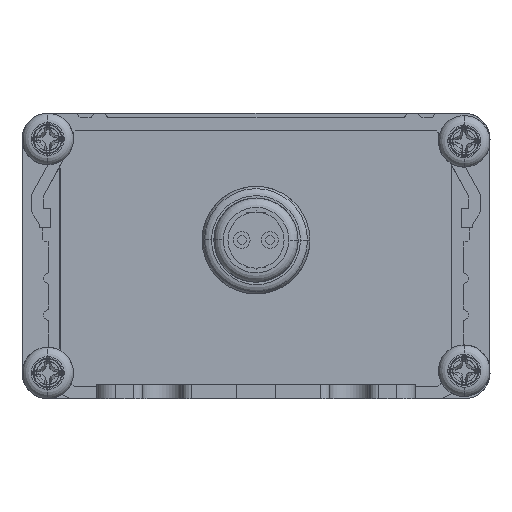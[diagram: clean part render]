
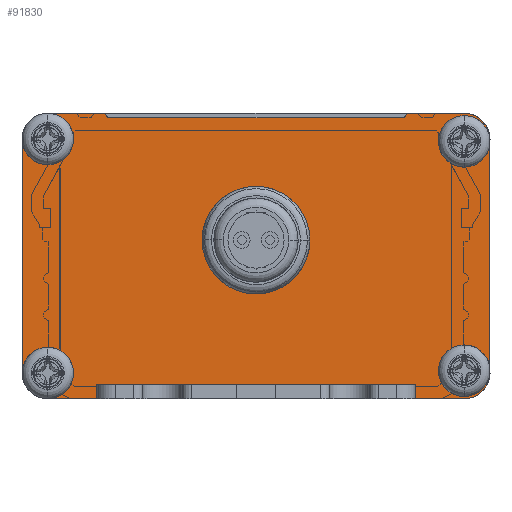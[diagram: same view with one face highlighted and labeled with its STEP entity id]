
A CAD part, left-side view. The second image highlights one B-rep face of the part: STEP entity #91830.
In plain terms, the highlighted planar face has unit normal (-1, 0, 0) as drawn and (0, 1, 0) by its records, which use the part's own axes.
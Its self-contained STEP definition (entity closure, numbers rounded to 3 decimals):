
#89330=CARTESIAN_POINT('',(0.,0.,0.));
#89340=DIRECTION('',(0.,1.,0.));
#89350=DIRECTION('',(1.,0.,0.));
#89360=AXIS2_PLACEMENT_3D('',#89330,#89340,#89350);
#89370=PLANE('',#89360);
#89380=CARTESIAN_POINT('',(-15.45,0.,-17.));
#89390=DIRECTION('',(-1.,0.,0.));
#89400=VECTOR('',#89390,1.);
#89410=LINE('',#89380,#89400);
#89420=CARTESIAN_POINT('',(-15.45,0.,-17.));
#89430=VERTEX_POINT('',#89420);
#89440=CARTESIAN_POINT('',(-16.95,0.,-17.));
#89450=VERTEX_POINT('',#89440);
#89460=EDGE_CURVE('',#89430,#89450,#89410,.T.);
#89470=ORIENTED_EDGE('',*,*,#89460,.F.);
#89480=CARTESIAN_POINT('',(-16.95,0.,-17.));
#89490=DIRECTION('',(0.,0.,-1.));
#89500=VECTOR('',#89490,1.);
#89510=LINE('',#89480,#89500);
#89520=CARTESIAN_POINT('',(-16.95,0.,-22.25));
#89530=VERTEX_POINT('',#89520);
#89540=EDGE_CURVE('',#89450,#89530,#89510,.T.);
#89550=ORIENTED_EDGE('',*,*,#89540,.F.);
#89560=CARTESIAN_POINT('',(-14.2,0.,-22.25));
#89570=DIRECTION('',(0.,-1.,-0.));
#89580=DIRECTION('',(-1.,0.,0.));
#89590=AXIS2_PLACEMENT_3D('',#89560,#89570,#89580);
#89600=CIRCLE('',#89590,2.75);
#89610=CARTESIAN_POINT('',(-14.2,0.,-25.));
#89620=VERTEX_POINT('',#89610);
#89630=EDGE_CURVE('',#89530,#89620,#89600,.T.);
#89640=ORIENTED_EDGE('',*,*,#89630,.F.);
#89650=CARTESIAN_POINT('',(-14.2,0.,-25.));
#89660=DIRECTION('',(1.,0.,0.));
#89670=VECTOR('',#89660,1.);
#89680=LINE('',#89650,#89670);
#89690=CARTESIAN_POINT('',(10.8,0.,-25.));
#89700=VERTEX_POINT('',#89690);
#89710=EDGE_CURVE('',#89620,#89700,#89680,.T.);
#89720=ORIENTED_EDGE('',*,*,#89710,.F.);
#89730=CARTESIAN_POINT('',(10.8,0.,-22.25));
#89740=DIRECTION('',(0.,-1.,-0.));
#89750=DIRECTION('',(0.,0.,-1.));
#89760=AXIS2_PLACEMENT_3D('',#89730,#89740,#89750);
#89770=CIRCLE('',#89760,2.75);
#89780=CARTESIAN_POINT('',(13.55,0.,-22.25));
#89790=VERTEX_POINT('',#89780);
#89800=EDGE_CURVE('',#89700,#89790,#89770,.T.);
#89810=ORIENTED_EDGE('',*,*,#89800,.F.);
#89820=CARTESIAN_POINT('',(13.55,0.,-22.25));
#89830=DIRECTION('',(0.,0.,1.));
#89840=VECTOR('',#89830,1.);
#89850=LINE('',#89820,#89840);
#89860=CARTESIAN_POINT('',(13.55,0.,-16.248));
#89870=VERTEX_POINT('',#89860);
#89880=EDGE_CURVE('',#89790,#89870,#89850,.T.);
#89890=ORIENTED_EDGE('',*,*,#89880,.F.);
#89900=CARTESIAN_POINT('',(13.35,0.,-16.248));
#89910=DIRECTION('',(0.,-1.,-0.));
#89920=DIRECTION('',(1.,0.,0.));
#89930=AXIS2_PLACEMENT_3D('',#89900,#89910,#89920);
#89940=CIRCLE('',#89930,0.2);
#89950=CARTESIAN_POINT('',(13.439,0.,-16.069));
#89960=VERTEX_POINT('',#89950);
#89970=EDGE_CURVE('',#89870,#89960,#89940,.T.);
#89980=ORIENTED_EDGE('',*,*,#89970,.F.);
#89990=CARTESIAN_POINT('',(13.439,0.,-16.069));
#90000=DIRECTION('',(-0.894,0.,0.447));
#90010=VECTOR('',#90000,1.);
#90020=LINE('',#89990,#90010);
#90030=CARTESIAN_POINT('',(13.161,0.,-15.93));
#90040=VERTEX_POINT('',#90030);
#90050=EDGE_CURVE('',#89960,#90040,#90020,.T.);
#90060=ORIENTED_EDGE('',*,*,#90050,.F.);
#90070=CARTESIAN_POINT('',(13.25,0.,-15.751));
#90080=DIRECTION('',(0.,1.,0.));
#90090=DIRECTION('',(-0.447,0.,-0.894));
#90100=AXIS2_PLACEMENT_3D('',#90070,#90080,#90090);
#90110=CIRCLE('',#90100,0.2);
#90120=CARTESIAN_POINT('',(13.05,0.,-15.751));
#90130=VERTEX_POINT('',#90120);
#90140=EDGE_CURVE('',#90040,#90130,#90110,.T.);
#90150=ORIENTED_EDGE('',*,*,#90140,.F.);
#90160=CARTESIAN_POINT('',(13.05,0.,-15.751));
#90170=DIRECTION('',(0.,0.,1.));
#90180=VECTOR('',#90170,1.);
#90190=LINE('',#90160,#90180);
#90200=CARTESIAN_POINT('',(13.05,0.,15.751));
#90210=VERTEX_POINT('',#90200);
#90220=EDGE_CURVE('',#90130,#90210,#90190,.T.);
#90230=ORIENTED_EDGE('',*,*,#90220,.F.);
#90240=CARTESIAN_POINT('',(13.25,0.,15.751));
#90250=DIRECTION('',(0.,1.,0.));
#90260=DIRECTION('',(-1.,0.,0.));
#90270=AXIS2_PLACEMENT_3D('',#90240,#90250,#90260);
#90280=CIRCLE('',#90270,0.2);
#90290=CARTESIAN_POINT('',(13.161,0.,15.93));
#90300=VERTEX_POINT('',#90290);
#90310=EDGE_CURVE('',#90210,#90300,#90280,.T.);
#90320=ORIENTED_EDGE('',*,*,#90310,.F.);
#90330=CARTESIAN_POINT('',(13.161,0.,15.93));
#90340=DIRECTION('',(0.894,0.,0.447));
#90350=VECTOR('',#90340,1.);
#90360=LINE('',#90330,#90350);
#90370=CARTESIAN_POINT('',(13.439,0.,16.069));
#90380=VERTEX_POINT('',#90370);
#90390=EDGE_CURVE('',#90300,#90380,#90360,.T.);
#90400=ORIENTED_EDGE('',*,*,#90390,.F.);
#90410=CARTESIAN_POINT('',(13.35,0.,16.248));
#90420=DIRECTION('',(0.,-1.,-0.));
#90430=DIRECTION('',(0.447,0.,-0.894));
#90440=AXIS2_PLACEMENT_3D('',#90410,#90420,#90430);
#90450=CIRCLE('',#90440,0.2);
#90460=CARTESIAN_POINT('',(13.55,0.,16.248));
#90470=VERTEX_POINT('',#90460);
#90480=EDGE_CURVE('',#90380,#90470,#90450,.T.);
#90490=ORIENTED_EDGE('',*,*,#90480,.F.);
#90500=CARTESIAN_POINT('',(13.55,0.,16.248));
#90510=DIRECTION('',(0.,0.,1.));
#90520=VECTOR('',#90510,1.);
#90530=LINE('',#90500,#90520);
#90540=CARTESIAN_POINT('',(13.55,0.,22.25));
#90550=VERTEX_POINT('',#90540);
#90560=EDGE_CURVE('',#90470,#90550,#90530,.T.);
#90570=ORIENTED_EDGE('',*,*,#90560,.F.);
#90580=CARTESIAN_POINT('',(10.8,0.,22.25));
#90590=DIRECTION('',(0.,-1.,-0.));
#90600=DIRECTION('',(1.,0.,0.));
#90610=AXIS2_PLACEMENT_3D('',#90580,#90590,#90600);
#90620=CIRCLE('',#90610,2.75);
#90630=CARTESIAN_POINT('',(10.8,0.,25.));
#90640=VERTEX_POINT('',#90630);
#90650=EDGE_CURVE('',#90550,#90640,#90620,.T.);
#90660=ORIENTED_EDGE('',*,*,#90650,.F.);
#90670=CARTESIAN_POINT('',(10.8,0.,25.));
#90680=DIRECTION('',(-1.,0.,0.));
#90690=VECTOR('',#90680,1.);
#90700=LINE('',#90670,#90690);
#90710=CARTESIAN_POINT('',(-14.2,0.,25.));
#90720=VERTEX_POINT('',#90710);
#90730=EDGE_CURVE('',#90640,#90720,#90700,.T.);
#90740=ORIENTED_EDGE('',*,*,#90730,.F.);
#90750=CARTESIAN_POINT('',(-14.2,0.,22.25));
#90760=DIRECTION('',(0.,-1.,0.));
#90770=DIRECTION('',(0.,0.,1.));
#90780=AXIS2_PLACEMENT_3D('',#90750,#90760,#90770);
#90790=CIRCLE('',#90780,2.75);
#90800=CARTESIAN_POINT('',(-16.95,0.,22.25));
#90810=VERTEX_POINT('',#90800);
#90820=EDGE_CURVE('',#90720,#90810,#90790,.T.);
#90830=ORIENTED_EDGE('',*,*,#90820,.F.);
#90840=CARTESIAN_POINT('',(-16.95,0.,22.25));
#90850=DIRECTION('',(0.,0.,-1.));
#90860=VECTOR('',#90850,1.);
#90870=LINE('',#90840,#90860);
#90880=CARTESIAN_POINT('',(-16.95,0.,17.));
#90890=VERTEX_POINT('',#90880);
#90900=EDGE_CURVE('',#90810,#90890,#90870,.T.);
#90910=ORIENTED_EDGE('',*,*,#90900,.F.);
#90920=CARTESIAN_POINT('',(-15.45,0.,17.));
#90930=DIRECTION('',(-1.,0.,0.));
#90940=VECTOR('',#90930,1.);
#90950=LINE('',#90920,#90940);
#90960=CARTESIAN_POINT('',(-15.45,0.,17.));
#90970=VERTEX_POINT('',#90960);
#90980=EDGE_CURVE('',#90970,#90890,#90950,.T.);
#90990=ORIENTED_EDGE('',*,*,#90980,.T.);
#91000=CARTESIAN_POINT('',(-15.45,0.,-17.));
#91010=DIRECTION('',(0.,0.,1.));
#91020=VECTOR('',#91010,1.);
#91030=LINE('',#91000,#91020);
#91040=EDGE_CURVE('',#89430,#90970,#91030,.T.);
#91050=ORIENTED_EDGE('',*,*,#91040,.T.);
#91060=EDGE_LOOP('',(#91050,#90990,#90910,#90830,#90740,#90660,#90570,
#90490,#90400,#90320,#90230,#90150,#90060,#89980,#89890,#89810,#89720,
#89640,#89550,#89470));
#91070=FACE_OUTER_BOUND('',#91060,.T.);
#91080=CARTESIAN_POINT('',(10.8,0.,-22.25));
#91090=DIRECTION('',(0.,1.,0.));
#91100=DIRECTION('',(-1.,0.,0.));
#91110=AXIS2_PLACEMENT_3D('',#91080,#91090,#91100);
#91120=CIRCLE('',#91110,1.6);
#91130=CARTESIAN_POINT('',(12.4,0.,-22.25));
#91140=VERTEX_POINT('',#91130);
#91150=CARTESIAN_POINT('',(9.2,0.,-22.25));
#91160=VERTEX_POINT('',#91150);
#91170=EDGE_CURVE('',#91140,#91160,#91120,.T.);
#91180=ORIENTED_EDGE('',*,*,#91170,.F.);
#91190=EDGE_CURVE('',#91160,#91140,#91120,.T.);
#91200=ORIENTED_EDGE('',*,*,#91190,.F.);
#91210=EDGE_LOOP('',(#91200,#91180));
#91220=FACE_BOUND('',#91210,.T.);
#91230=CARTESIAN_POINT('',(-14.2,0.,-22.25));
#91240=DIRECTION('',(0.,1.,0.));
#91250=DIRECTION('',(-1.,0.,0.));
#91260=AXIS2_PLACEMENT_3D('',#91230,#91240,#91250);
#91270=CIRCLE('',#91260,1.6);
#91280=CARTESIAN_POINT('',(-15.8,0.,-22.25));
#91290=VERTEX_POINT('',#91280);
#91300=CARTESIAN_POINT('',(-12.6,0.,-22.25));
#91310=VERTEX_POINT('',#91300);
#91320=EDGE_CURVE('',#91290,#91310,#91270,.T.);
#91330=ORIENTED_EDGE('',*,*,#91320,.F.);
#91340=EDGE_CURVE('',#91310,#91290,#91270,.T.);
#91350=ORIENTED_EDGE('',*,*,#91340,.F.);
#91360=EDGE_LOOP('',(#91350,#91330));
#91370=FACE_BOUND('',#91360,.T.);
#91380=CARTESIAN_POINT('',(-13.95,0.,22.25));
#91390=DIRECTION('',(0.,1.,0.));
#91400=DIRECTION('',(-1.,0.,0.));
#91410=AXIS2_PLACEMENT_3D('',#91380,#91390,#91400);
#91420=CIRCLE('',#91410,1.6);
#91430=CARTESIAN_POINT('',(-12.35,0.,22.25));
#91440=VERTEX_POINT('',#91430);
#91450=CARTESIAN_POINT('',(-15.55,0.,22.25));
#91460=VERTEX_POINT('',#91450);
#91470=EDGE_CURVE('',#91440,#91460,#91420,.T.);
#91480=ORIENTED_EDGE('',*,*,#91470,.F.);
#91490=EDGE_CURVE('',#91460,#91440,#91420,.T.);
#91500=ORIENTED_EDGE('',*,*,#91490,.F.);
#91510=EDGE_LOOP('',(#91500,#91480));
#91520=FACE_BOUND('',#91510,.T.);
#91530=CARTESIAN_POINT('',(10.55,0.,22.25));
#91540=DIRECTION('',(0.,1.,0.));
#91550=DIRECTION('',(-1.,0.,0.));
#91560=AXIS2_PLACEMENT_3D('',#91530,#91540,#91550);
#91570=CIRCLE('',#91560,1.6);
#91580=CARTESIAN_POINT('',(8.95,0.,22.25));
#91590=VERTEX_POINT('',#91580);
#91600=CARTESIAN_POINT('',(12.15,0.,22.25));
#91610=VERTEX_POINT('',#91600);
#91620=EDGE_CURVE('',#91590,#91610,#91570,.T.);
#91630=ORIENTED_EDGE('',*,*,#91620,.F.);
#91640=EDGE_CURVE('',#91610,#91590,#91570,.T.);
#91650=ORIENTED_EDGE('',*,*,#91640,.F.);
#91660=EDGE_LOOP('',(#91650,#91630));
#91670=FACE_BOUND('',#91660,.T.);
#91680=CARTESIAN_POINT('',(0.,0.,0.));
#91690=DIRECTION('',(0.,1.,0.));
#91700=DIRECTION('',(-1.,0.,0.));
#91710=AXIS2_PLACEMENT_3D('',#91680,#91690,#91700);
#91720=CIRCLE('',#91710,5.5);
#91730=CARTESIAN_POINT('',(5.5,0.,0.));
#91740=VERTEX_POINT('',#91730);
#91750=CARTESIAN_POINT('',(-5.5,0.,0.));
#91760=VERTEX_POINT('',#91750);
#91770=EDGE_CURVE('',#91740,#91760,#91720,.T.);
#91780=ORIENTED_EDGE('',*,*,#91770,.F.);
#91790=EDGE_CURVE('',#91760,#91740,#91720,.T.);
#91800=ORIENTED_EDGE('',*,*,#91790,.F.);
#91810=EDGE_LOOP('',(#91800,#91780));
#91820=FACE_BOUND('',#91810,.T.);
#91830=ADVANCED_FACE('',(#91070,#91220,#91370,#91520,#91670,#91820),
#89370,.T.);
